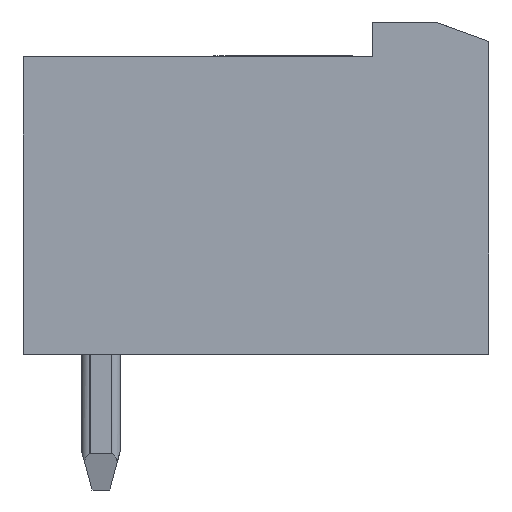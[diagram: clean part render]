
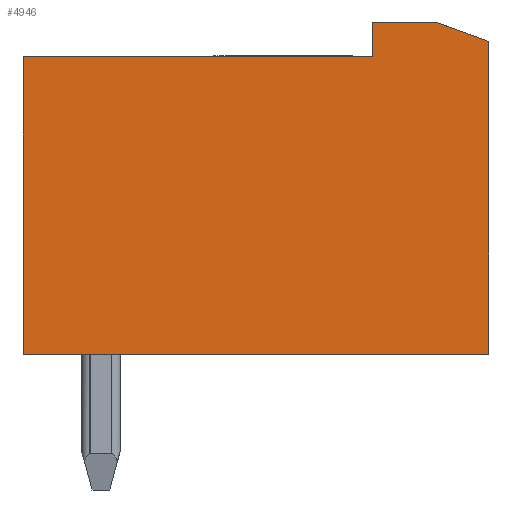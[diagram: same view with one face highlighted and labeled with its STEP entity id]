
A CAD part, left-side view. The second image highlights one B-rep face of the part: STEP entity #4946.
In plain terms, the highlighted planar face has unit normal (-1, 0, 0).
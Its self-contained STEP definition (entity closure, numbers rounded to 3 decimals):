
#4946=ADVANCED_FACE('',(#12001),#12002,.T.);
#7058=VERTEX_POINT('',#14571);
#7062=VERTEX_POINT('',#14575);
#7064=EDGE_CURVE('',#7058,#7062,#14577,.T.);
#7118=VERTEX_POINT('',#14631);
#7122=EDGE_CURVE('',#7058,#7118,#14635,.T.);
#7140=VERTEX_POINT('',#14653);
#7144=EDGE_CURVE('',#7118,#7140,#14657,.T.);
#7158=VERTEX_POINT('',#14671);
#7162=EDGE_CURVE('',#7158,#7140,#14675,.T.);
#7164=VERTEX_POINT('',#14677);
#7168=EDGE_CURVE('',#7164,#7158,#14681,.T.);
#7208=VERTEX_POINT('',#14722);
#7212=EDGE_CURVE('',#7164,#7208,#14726,.T.);
#7266=EDGE_CURVE('',#7208,#7062,#14780,.T.);
#12001=FACE_OUTER_BOUND('',#27885,.T.);
#12002=PLANE('',#27886);
#14571=CARTESIAN_POINT('',(0.0,0.,0.0));
#14575=CARTESIAN_POINT('',(0.0,12.0,0.0));
#14577=LINE('',#31791,#31792);
#14631=CARTESIAN_POINT('',(0.,0.,8.07));
#14635=LINE('',#31880,#31881);
#14653=CARTESIAN_POINT('',(0.,1.374,8.57));
#14657=LINE('',#31931,#31932);
#14671=CARTESIAN_POINT('',(0.,3.,8.57));
#14675=LINE('',#31961,#31962);
#14677=CARTESIAN_POINT('',(0.,3.,7.67));
#14681=LINE('',#31971,#31972);
#14722=CARTESIAN_POINT('',(0.,12.0,7.67));
#14726=LINE('',#32041,#32042);
#14780=LINE('',#32154,#32155);
#27885=EDGE_LOOP('',(#40119,#40120,#40121,#40122,#40123,#40124,#40125));
#27886=AXIS2_PLACEMENT_3D('',#40126,#40127,#40128);
#31791=CARTESIAN_POINT('',(0.0,0.,0.));
#31792=VECTOR('',#43965,1.0);
#31880=CARTESIAN_POINT('',(0.,0.,0.0));
#31881=VECTOR('',#43988,1.0);
#31931=CARTESIAN_POINT('',(0.,0.,8.07));
#31932=VECTOR('',#43998,1.0);
#31961=CARTESIAN_POINT('',(0.,3.,8.57));
#31962=VECTOR('',#44004,1.0);
#31971=CARTESIAN_POINT('',(0.,3.,7.67));
#31972=VECTOR('',#44006,1.0);
#32041=CARTESIAN_POINT('',(0.,3.,7.67));
#32042=VECTOR('',#44036,1.0);
#32154=CARTESIAN_POINT('',(0.,12.0,7.67));
#32155=VECTOR('',#44063,1.0);
#40119=ORIENTED_EDGE('',*,*,#7064,.F.);
#40120=ORIENTED_EDGE('',*,*,#7122,.T.);
#40121=ORIENTED_EDGE('',*,*,#7144,.T.);
#40122=ORIENTED_EDGE('',*,*,#7162,.F.);
#40123=ORIENTED_EDGE('',*,*,#7168,.F.);
#40124=ORIENTED_EDGE('',*,*,#7212,.T.);
#40125=ORIENTED_EDGE('',*,*,#7266,.T.);
#40126=CARTESIAN_POINT('',(0.,12.3,8.784));
#40127=DIRECTION('',(-1.0,0.,0.));
#40128=DIRECTION('',(0.,0.0,1.0));
#43965=DIRECTION('',(0.0,1.0,0.));
#43988=DIRECTION('',(0.,0.,1.0));
#43998=DIRECTION('',(0.,0.94,0.342));
#44004=DIRECTION('',(0.0,-1.0,0.));
#44006=DIRECTION('',(0.,0.,1.0));
#44036=DIRECTION('',(0.0,1.0,0.));
#44063=DIRECTION('',(0.,0.,-1.0));
